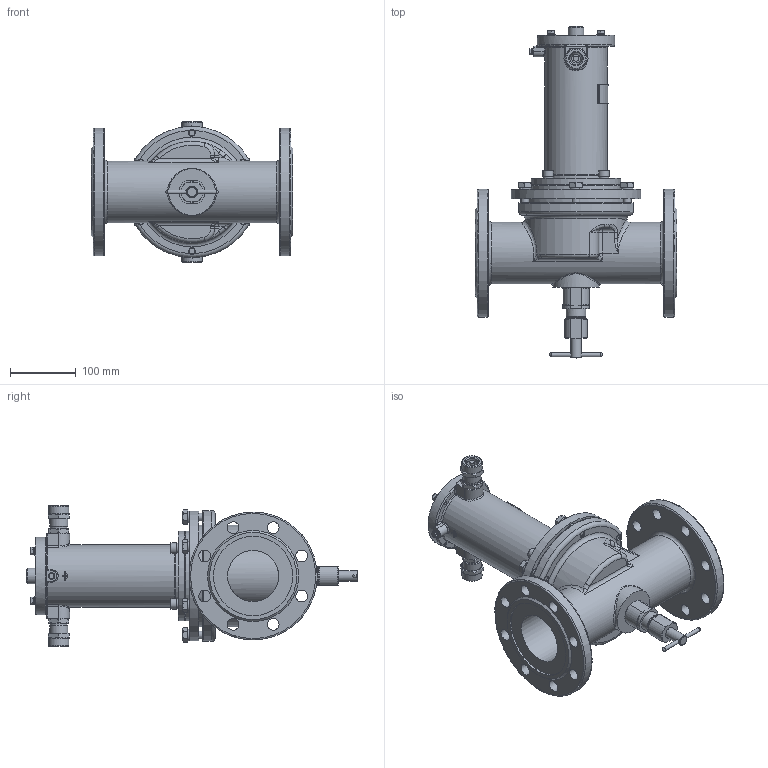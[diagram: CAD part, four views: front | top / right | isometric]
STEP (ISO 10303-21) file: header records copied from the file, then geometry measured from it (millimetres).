
FILE_DESCRIPTION(('STEP AP203'), '1');
FILE_NAME('ÑÅÍÑ DN80PN25-Â-ÍÎ-ÑÂ.stp', '2018-09-19T08:51:42', ('Îðëîâ Å.Â.'), ('ÎÎÎ ÍÏÏ Ñåíñîð'), 'ASCON STEP Converter 1.3', 'Kompas 3D', '');
FILE_SCHEMA(('CONFIG_CONTROL_DESIGN','SUPPORT_RESOURCE_SCHEMA'));
Length unit declared in the file: millimetre
Products named in the file (1): 80
Bounding box: 308 x 506.5 x 214 mm (x, y, z)
Volume: 3447163.1 mm3; surface area: 732881.2 mm2
Topology: 3 solids, 23 shells, 2139 faces, 5654 edges, 3649 vertices
Faces by surface type: cylinder 1044, plane 808, cone 157, bspline 56, torus 50, extrusion 16, sphere 8
Full cylindrical faces by diameter (mm): 3.5 x2, 4.134 x1, 4.917 x7, 5 x1, 6 x9, 6.5 x4, 8 x8, 8.2 x1, 8.376 x4, 10 x5, 10.106 x6, 11 x5, 12 x10, 13 x8, 16 x6, 17 x2, 18 x17, 18.632 x2, 20 x3, 22 x2, 22.376 x2, 23 x1, 23.5 x2, 24 x3, 24.5 x2, 26 x4, 26.376 x2, 27.8 x1, 28 x3, 28.5 x2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
Entity records: 85226 total; most frequent: CARTESIAN_POINT 31318, DIRECTION 11603, ORIENTED_EDGE 11232, EDGE_CURVE 5616, AXIS2_PLACEMENT_3D 4472, VERTEX_POINT 3649, VECTOR 2659, LINE 2643
